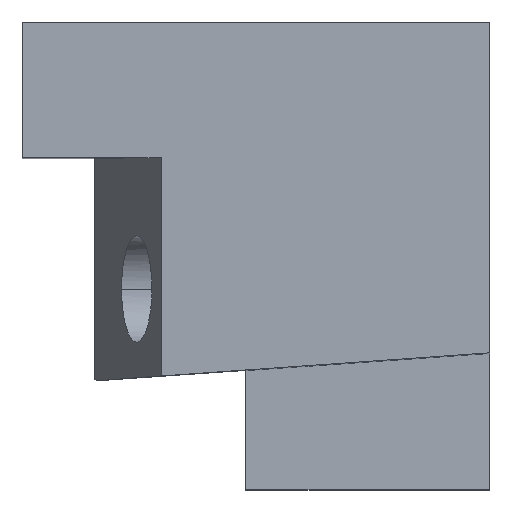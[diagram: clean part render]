
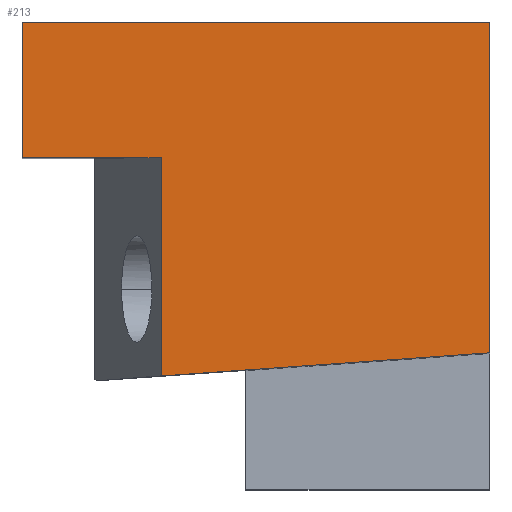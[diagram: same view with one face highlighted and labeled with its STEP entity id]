
A CAD part, top view. The second image highlights one B-rep face of the part: STEP entity #213.
In plain terms, the highlighted planar face has unit normal (0, 0, 1).
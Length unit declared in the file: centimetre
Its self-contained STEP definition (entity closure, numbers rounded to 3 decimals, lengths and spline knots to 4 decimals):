
#43 = VERTEX_POINT ( 'NONE', #744 ) ;
#73 = CARTESIAN_POINT ( 'NONE',  ( 1000., 1000., 1000. ) ) ;
#76 = VERTEX_POINT ( 'NONE', #428 ) ;
#106 = EDGE_CURVE ( 'NONE', #847, #43, #446, .T. ) ;
#108 = ORIENTED_EDGE ( 'NONE', *, *, #311, .T. ) ;
#134 = DIRECTION ( 'NONE',  ( 0., 1., 0. ) ) ;
#145 = LINE ( 'NONE', #305, #337 ) ;
#213 = ADVANCED_FACE ( 'NONE', ( #563 ), #950, .T. ) ;
#243 = VECTOR ( 'NONE', #1010, 100. ) ;
#265 = ORIENTED_EDGE ( 'NONE', *, *, #654, .T. ) ;
#288 = EDGE_CURVE ( 'NONE', #76, #477, #145, .T. ) ;
#305 = CARTESIAN_POINT ( 'NONE',  ( 0., 1000., 1000. ) ) ;
#311 = EDGE_CURVE ( 'NONE', #477, #663, #1023, .T. ) ;
#319 = CARTESIAN_POINT ( 'NONE',  ( 1000., 291.9283, 1000. ) ) ;
#337 = VECTOR ( 'NONE', #560, 100. ) ;
#341 = ORIENTED_EDGE ( 'NONE', *, *, #897, .F. ) ;
#357 = VECTOR ( 'NONE', #679, 100. ) ;
#394 = DIRECTION ( 'NONE',  ( 0., 0., 1. ) ) ;
#417 = VECTOR ( 'NONE', #553, 100. ) ;
#428 = CARTESIAN_POINT ( 'NONE',  ( 1000., 1000., 1000. ) ) ;
#446 = LINE ( 'NONE', #452, #480 ) ;
#452 = CARTESIAN_POINT ( 'NONE',  ( 296.7808, 709.3828, 1000. ) ) ;
#469 = CARTESIAN_POINT ( 'NONE',  ( 0., 0., 1000. ) ) ;
#470 = ORIENTED_EDGE ( 'NONE', *, *, #288, .T. ) ;
#477 = VERTEX_POINT ( 'NONE', #530 ) ;
#480 = VECTOR ( 'NONE', #823, 100. ) ;
#484 = EDGE_LOOP ( 'NONE', ( #905, #650, #265, #470, #108, #341 ) ) ;
#530 = CARTESIAN_POINT ( 'NONE',  ( 0., 1000., 1000. ) ) ;
#553 = DIRECTION ( 'NONE',  ( 0., -1., 0. ) ) ;
#560 = DIRECTION ( 'NONE',  ( -1., 0., 0. ) ) ;
#562 = LINE ( 'NONE', #73, #596 ) ;
#563 = FACE_OUTER_BOUND ( 'NONE', #484, .T. ) ;
#596 = VECTOR ( 'NONE', #134, 100. ) ;
#611 = EDGE_CURVE ( 'NONE', #824, #43, #701, .T. ) ;
#631 = CARTESIAN_POINT ( 'NONE',  ( 0., 1000., 1000. ) ) ;
#650 = ORIENTED_EDGE ( 'NONE', *, *, #611, .F. ) ;
#654 = EDGE_CURVE ( 'NONE', #824, #76, #562, .T. ) ;
#663 = VERTEX_POINT ( 'NONE', #792 ) ;
#679 = DIRECTION ( 'NONE',  ( -1., 0., 0. ) ) ;
#682 = AXIS2_PLACEMENT_3D ( 'NONE', #469, #394, #1024 ) ;
#701 = LINE ( 'NONE', #319, #243 ) ;
#744 = CARTESIAN_POINT ( 'NONE',  ( 296.7808, 242.4398, 1000. ) ) ;
#761 = LINE ( 'NONE', #767, #357 ) ;
#767 = CARTESIAN_POINT ( 'NONE',  ( 0., 709.3828, 1000. ) ) ;
#792 = CARTESIAN_POINT ( 'NONE',  ( 0., 709.3828, 1000. ) ) ;
#810 = CARTESIAN_POINT ( 'NONE',  ( 296.7808, 709.3828, 1000. ) ) ;
#823 = DIRECTION ( 'NONE',  ( 0., -1., 0. ) ) ;
#824 = VERTEX_POINT ( 'NONE', #965 ) ;
#847 = VERTEX_POINT ( 'NONE', #810 ) ;
#897 = EDGE_CURVE ( 'NONE', #847, #663, #761, .T. ) ;
#905 = ORIENTED_EDGE ( 'NONE', *, *, #106, .T. ) ;
#950 = PLANE ( 'NONE',  #682 ) ;
#965 = CARTESIAN_POINT ( 'NONE',  ( 1000., 291.9283, 1000. ) ) ;
#1010 = DIRECTION ( 'NONE',  ( -0.998, -0.07, 0. ) ) ;
#1023 = LINE ( 'NONE', #631, #417 ) ;
#1024 = DIRECTION ( 'NONE',  ( 1., 0., 0. ) ) ;
